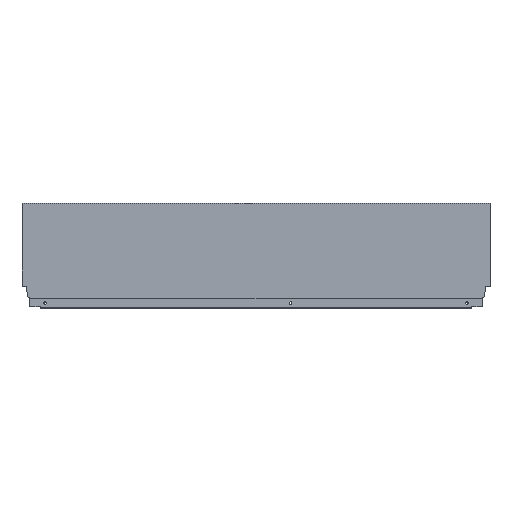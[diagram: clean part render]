
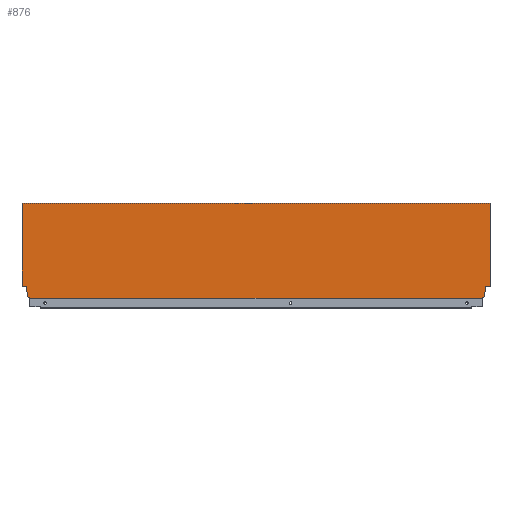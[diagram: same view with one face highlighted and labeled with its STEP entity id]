
A CAD part, top view. The second image highlights one B-rep face of the part: STEP entity #876.
In plain terms, the highlighted planar face has unit normal (0, 0, 1).
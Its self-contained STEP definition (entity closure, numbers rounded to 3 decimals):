
#4 = CARTESIAN_POINT ( 'NONE',  ( -8.9, 10.765, 7.5 ) ) ;
#105 = VERTEX_POINT ( 'NONE', #234 ) ;
#106 = VERTEX_POINT ( 'NONE', #4 ) ;
#108 = VERTEX_POINT ( 'NONE', #703 ) ;
#128 = CARTESIAN_POINT ( 'NONE',  ( -7.06, 21.2, 7.5 ) ) ;
#134 = CARTESIAN_POINT ( 'NONE',  ( -13.004, 0., 7.5 ) ) ;
#175 = VERTEX_POINT ( 'NONE', #608 ) ;
#216 = CARTESIAN_POINT ( 'NONE',  ( -802.1, 2.64, 7.5 ) ) ;
#234 = CARTESIAN_POINT ( 'NONE',  ( -797.996, 1.146, 7.5 ) ) ;
#243 = VERTEX_POINT ( 'NONE', #275 ) ;
#248 = VERTEX_POINT ( 'NONE', #634 ) ;
#253 = VERTEX_POINT ( 'NONE', #285 ) ;
#254 = VERTEX_POINT ( 'NONE', #649 ) ;
#275 = CARTESIAN_POINT ( 'NONE',  ( -811., 21.2, 7.5 ) ) ;
#285 = CARTESIAN_POINT ( 'NONE',  ( -803.94, 21.2, 7.5 ) ) ;
#297 = VERTEX_POINT ( 'NONE', #314 ) ;
#298 = VERTEX_POINT ( 'NONE', #517 ) ;
#300 = VERTEX_POINT ( 'NONE', #556 ) ;
#314 = CARTESIAN_POINT ( 'NONE',  ( -797.996, 0., 7.5 ) ) ;
#421 = PLANE ( 'NONE',  #819 ) ;
#424 = CARTESIAN_POINT ( 'NONE',  ( -811., 0., 7.5 ) ) ;
#431 = DIRECTION ( 'NONE',  ( 0., 0., 1. ) ) ;
#435 = DIRECTION ( 'NONE',  ( 1., 0., 0. ) ) ;
#459 = DIRECTION ( 'NONE',  ( 1., 0., 0. ) ) ;
#460 = CARTESIAN_POINT ( 'NONE',  ( -811., 0., 7.5 ) ) ;
#461 = CARTESIAN_POINT ( 'NONE',  ( -7.06, 21.2, 7.5 ) ) ;
#462 = DIRECTION ( 'NONE',  ( -0.174, -0.985, 0. ) ) ;
#464 = CARTESIAN_POINT ( 'NONE',  ( 0., 0., 7.5 ) ) ;
#465 = DIRECTION ( 'NONE',  ( 0., -1., 0. ) ) ;
#466 = CARTESIAN_POINT ( 'NONE',  ( -8.9, 10.765, 7.5 ) ) ;
#468 = DIRECTION ( 'NONE',  ( 0., -1., 0. ) ) ;
#469 = CARTESIAN_POINT ( 'NONE',  ( -811., 0., 7.5 ) ) ;
#472 = DIRECTION ( 'NONE',  ( -0.94, -0.342, 0. ) ) ;
#473 = CARTESIAN_POINT ( 'NONE',  ( -8.9, 2.64, 7.5 ) ) ;
#474 = DIRECTION ( 'NONE',  ( 0., -1., 0. ) ) ;
#476 = DIRECTION ( 'NONE',  ( 0., -1., 0. ) ) ;
#478 = DIRECTION ( 'NONE',  ( 0., 1., 0. ) ) ;
#479 = CARTESIAN_POINT ( 'NONE',  ( -802.1, 10.765, 7.5 ) ) ;
#480 = DIRECTION ( 'NONE',  ( -0.94, 0.342, 0. ) ) ;
#482 = CARTESIAN_POINT ( 'NONE',  ( -802.1, 2.64, 7.5 ) ) ;
#483 = DIRECTION ( 'NONE',  ( -0.174, 0.985, 0. ) ) ;
#484 = CARTESIAN_POINT ( 'NONE',  ( -803.94, 21.2, 7.5 ) ) ;
#485 = DIRECTION ( 'NONE',  ( -1., 0., 0. ) ) ;
#486 = CARTESIAN_POINT ( 'NONE',  ( -816., 21.2, 7.5 ) ) ;
#502 = CARTESIAN_POINT ( 'NONE',  ( -797.996, 1.146, 7.5 ) ) ;
#503 = DIRECTION ( 'NONE',  ( 0., 1., 0. ) ) ;
#509 = CARTESIAN_POINT ( 'NONE',  ( -13.004, 1.146, 7.5 ) ) ;
#510 = DIRECTION ( 'NONE',  ( 1., 0., 0. ) ) ;
#511 = CARTESIAN_POINT ( 'NONE',  ( -811., 164.7, 7.5 ) ) ;
#513 = DIRECTION ( 'NONE',  ( -1., 0., 0. ) ) ;
#514 = CARTESIAN_POINT ( 'NONE',  ( 0., 21.2, 7.5 ) ) ;
#517 = CARTESIAN_POINT ( 'NONE',  ( 0., 21.2, 7.5 ) ) ;
#556 = CARTESIAN_POINT ( 'NONE',  ( 0., 164.7, 7.5 ) ) ;
#608 = CARTESIAN_POINT ( 'NONE',  ( -802.1, 10.765, 7.5 ) ) ;
#634 = CARTESIAN_POINT ( 'NONE',  ( -13.004, 1.146, 7.5 ) ) ;
#649 = CARTESIAN_POINT ( 'NONE',  ( -811., 164.7, 7.5 ) ) ;
#695 = VERTEX_POINT ( 'NONE', #128 ) ;
#698 = VERTEX_POINT ( 'NONE', #134 ) ;
#700 = VERTEX_POINT ( 'NONE', #216 ) ;
#703 = CARTESIAN_POINT ( 'NONE',  ( -8.9, 2.64, 7.5 ) ) ;
#775 = EDGE_CURVE ( 'NONE', #254, #300, #1428, .T. ) ;
#777 = EDGE_CURVE ( 'NONE', #298, #695, #1432, .T. ) ;
#779 = EDGE_CURVE ( 'NONE', #695, #106, #1436, .T. ) ;
#780 = EDGE_CURVE ( 'NONE', #300, #298, #1438, .T. ) ;
#781 = EDGE_CURVE ( 'NONE', #106, #108, #1440, .T. ) ;
#782 = EDGE_CURVE ( 'NONE', #108, #248, #1442, .T. ) ;
#783 = EDGE_CURVE ( 'NONE', #254, #243, #1444, .T. ) ;
#784 = EDGE_CURVE ( 'NONE', #248, #698, #1423, .T. ) ;
#785 = EDGE_CURVE ( 'NONE', #105, #700, #1448, .T. ) ;
#786 = EDGE_CURVE ( 'NONE', #700, #175, #1450, .T. ) ;
#787 = EDGE_CURVE ( 'NONE', #175, #253, #1452, .T. ) ;
#788 = EDGE_CURVE ( 'NONE', #253, #243, #1454, .T. ) ;
#789 = EDGE_CURVE ( 'NONE', #297, #698, #1456, .T. ) ;
#792 = EDGE_CURVE ( 'NONE', #297, #105, #1431, .T. ) ;
#819 = AXIS2_PLACEMENT_3D ( 'NONE', #424, #431, #435 ) ;
#876 = ADVANCED_FACE ( 'NONE', ( #1485 ), #421, .T. ) ;
#1059 = ORIENTED_EDGE ( 'NONE', *, *, #775, .F. ) ;
#1060 = ORIENTED_EDGE ( 'NONE', *, *, #780, .F. ) ;
#1061 = ORIENTED_EDGE ( 'NONE', *, *, #777, .F. ) ;
#1062 = ORIENTED_EDGE ( 'NONE', *, *, #779, .F. ) ;
#1063 = ORIENTED_EDGE ( 'NONE', *, *, #781, .F. ) ;
#1064 = ORIENTED_EDGE ( 'NONE', *, *, #782, .F. ) ;
#1065 = ORIENTED_EDGE ( 'NONE', *, *, #784, .F. ) ;
#1066 = ORIENTED_EDGE ( 'NONE', *, *, #789, .T. ) ;
#1067 = ORIENTED_EDGE ( 'NONE', *, *, #792, .F. ) ;
#1068 = ORIENTED_EDGE ( 'NONE', *, *, #785, .F. ) ;
#1069 = ORIENTED_EDGE ( 'NONE', *, *, #786, .F. ) ;
#1070 = ORIENTED_EDGE ( 'NONE', *, *, #787, .F. ) ;
#1071 = ORIENTED_EDGE ( 'NONE', *, *, #788, .F. ) ;
#1072 = ORIENTED_EDGE ( 'NONE', *, *, #783, .T. ) ;
#1203 = EDGE_LOOP ( 'NONE', ( #1072, #1071, #1070, #1069, #1068, #1067, #1066, #1065, #1064, #1063, #1062, #1061, #1060, #1059 ) ) ;
#1423 = LINE ( 'NONE', #509, #1446 ) ;
#1425 = VECTOR ( 'NONE', #503, 1000. ) ;
#1428 = LINE ( 'NONE', #511, #1429 ) ;
#1429 = VECTOR ( 'NONE', #510, 1000. ) ;
#1431 = LINE ( 'NONE', #502, #1425 ) ;
#1432 = LINE ( 'NONE', #514, #1433 ) ;
#1433 = VECTOR ( 'NONE', #513, 1000. ) ;
#1436 = LINE ( 'NONE', #461, #1437 ) ;
#1437 = VECTOR ( 'NONE', #462, 1000. ) ;
#1438 = LINE ( 'NONE', #464, #1439 ) ;
#1439 = VECTOR ( 'NONE', #468, 1000. ) ;
#1440 = LINE ( 'NONE', #466, #1441 ) ;
#1441 = VECTOR ( 'NONE', #465, 1000. ) ;
#1442 = LINE ( 'NONE', #473, #1443 ) ;
#1443 = VECTOR ( 'NONE', #472, 1000. ) ;
#1444 = LINE ( 'NONE', #469, #1445 ) ;
#1445 = VECTOR ( 'NONE', #476, 1000. ) ;
#1446 = VECTOR ( 'NONE', #474, 1000. ) ;
#1448 = LINE ( 'NONE', #482, #1449 ) ;
#1449 = VECTOR ( 'NONE', #480, 1000. ) ;
#1450 = LINE ( 'NONE', #479, #1451 ) ;
#1451 = VECTOR ( 'NONE', #478, 1000. ) ;
#1452 = LINE ( 'NONE', #484, #1453 ) ;
#1453 = VECTOR ( 'NONE', #483, 1000. ) ;
#1454 = LINE ( 'NONE', #486, #1455 ) ;
#1455 = VECTOR ( 'NONE', #485, 1000. ) ;
#1456 = LINE ( 'NONE', #460, #1457 ) ;
#1457 = VECTOR ( 'NONE', #459, 1000. ) ;
#1485 = FACE_OUTER_BOUND ( 'NONE', #1203, .T. ) ;
